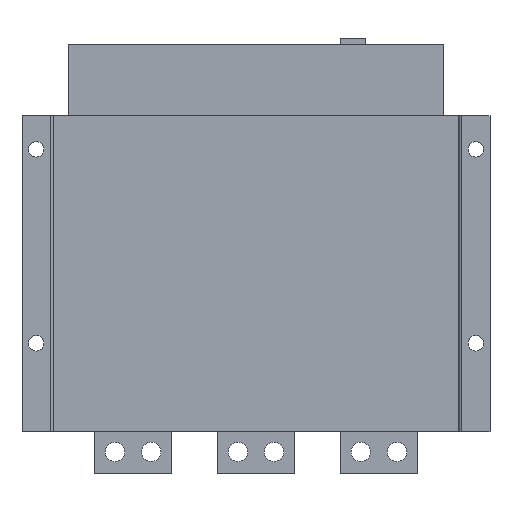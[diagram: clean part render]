
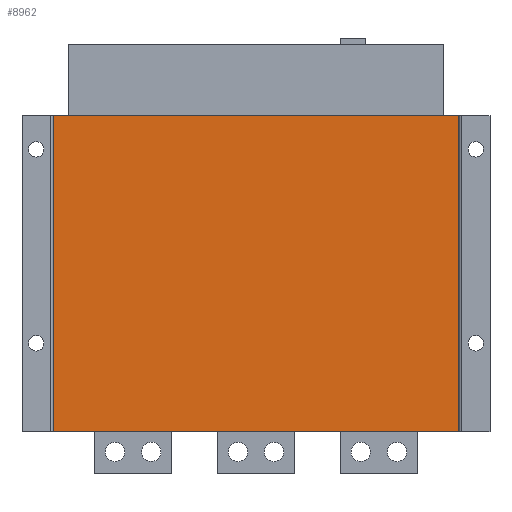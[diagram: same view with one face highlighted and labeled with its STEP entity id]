
A CAD part, front view. The second image highlights one B-rep face of the part: STEP entity #8962.
In plain terms, the highlighted planar face has unit normal (0, -1, 0).
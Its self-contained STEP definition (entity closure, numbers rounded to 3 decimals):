
#266 = EDGE_LOOP ( 'NONE', ( #28141, #8151, #2138, #15618 ) ) ;
#638 = DIRECTION ( 'NONE',  ( 0., -1., 0. ) ) ;
#1145 = LINE ( 'NONE', #11275, #3471 ) ;
#2138 = ORIENTED_EDGE ( 'NONE', *, *, #18623, .T. ) ;
#3471 = VECTOR ( 'NONE', #10956, 1000. ) ;
#3959 = CARTESIAN_POINT ( 'NONE',  ( 159., 15., -244.5 ) ) ;
#4505 = EDGE_CURVE ( 'NONE', #29541, #28797, #20227, .T. ) ;
#5620 = CARTESIAN_POINT ( 'NONE',  ( -159., 15., 0. ) ) ;
#7930 = DIRECTION ( 'NONE',  ( 1., 0., 0. ) ) ;
#8151 = ORIENTED_EDGE ( 'NONE', *, *, #4505, .F. ) ;
#8536 = CARTESIAN_POINT ( 'NONE',  ( -159., 15., -244.5 ) ) ;
#8962 = ADVANCED_FACE ( 'NONE', ( #9749 ), #25345, .T. ) ;
#9749 = FACE_OUTER_BOUND ( 'NONE', #266, .T. ) ;
#10115 = LINE ( 'NONE', #20015, #29189 ) ;
#10132 = CARTESIAN_POINT ( 'NONE',  ( -159., 15., -244.5 ) ) ;
#10444 = CARTESIAN_POINT ( 'NONE',  ( 0., 15., -244.5 ) ) ;
#10915 = LINE ( 'NONE', #12364, #11319 ) ;
#10956 = DIRECTION ( 'NONE',  ( 1., 0., 0. ) ) ;
#11275 = CARTESIAN_POINT ( 'NONE',  ( 0., 15., 0. ) ) ;
#11319 = VECTOR ( 'NONE', #21910, 1000. ) ;
#12041 = VECTOR ( 'NONE', #25137, 1000. ) ;
#12364 = CARTESIAN_POINT ( 'NONE',  ( 159., 15., -244.5 ) ) ;
#12604 = AXIS2_PLACEMENT_3D ( 'NONE', #10444, #638, #23036 ) ;
#15618 = ORIENTED_EDGE ( 'NONE', *, *, #17241, .T. ) ;
#17241 = EDGE_CURVE ( 'NONE', #25431, #26615, #10915, .T. ) ;
#18623 = EDGE_CURVE ( 'NONE', #29541, #25431, #10115, .T. ) ;
#20015 = CARTESIAN_POINT ( 'NONE',  ( 0., 15., -244.5 ) ) ;
#20227 = LINE ( 'NONE', #10132, #12041 ) ;
#21910 = DIRECTION ( 'NONE',  ( 0., 0., 1. ) ) ;
#22817 = EDGE_CURVE ( 'NONE', #28797, #26615, #1145, .T. ) ;
#23036 = DIRECTION ( 'NONE',  ( 0., 0., -1. ) ) ;
#25137 = DIRECTION ( 'NONE',  ( 0., 0., 1. ) ) ;
#25345 = PLANE ( 'NONE',  #12604 ) ;
#25431 = VERTEX_POINT ( 'NONE', #3959 ) ;
#26615 = VERTEX_POINT ( 'NONE', #28087 ) ;
#28087 = CARTESIAN_POINT ( 'NONE',  ( 159., 15., 0. ) ) ;
#28141 = ORIENTED_EDGE ( 'NONE', *, *, #22817, .F. ) ;
#28797 = VERTEX_POINT ( 'NONE', #5620 ) ;
#29189 = VECTOR ( 'NONE', #7930, 1000. ) ;
#29541 = VERTEX_POINT ( 'NONE', #8536 ) ;
